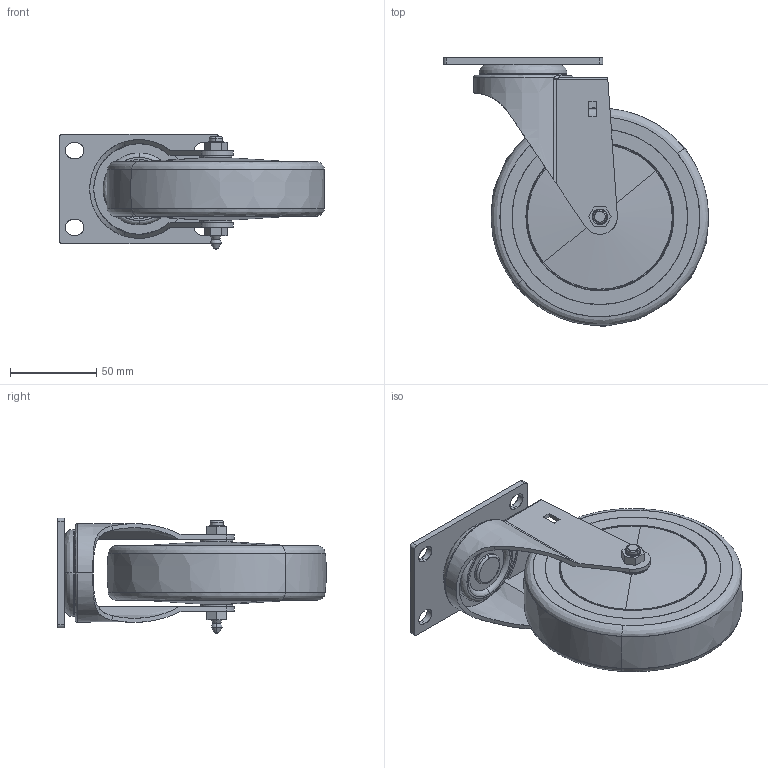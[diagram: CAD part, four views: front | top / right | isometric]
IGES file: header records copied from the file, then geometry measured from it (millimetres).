
Start section: SolidWorks IGES file using analytic representation for surfaces
Global section: file name: \\192.168.10.26\Nimesh\Tyler Manz\Output\2024\2024-03-08\5'' Swivel Caster - Non Marking Polyurethane Wheel\SCC-20S514-PPUB 3D IGES.IGS; native system: SolidWorks 2016; preprocessor: SolidWorks 2016; author: kathan.gandhi; date: 240308.090207; units: inch
Bounding box: 153.37 x 155.46 x 66.98 mm (x, y, z)
Surface area: 109268.2 mm2 (no closed solid volume)
Topology: 0 solids, 0 shells, 282 faces, 4836 edges, 4836 vertices
Faces by surface type: bspline 187, revolution 95
